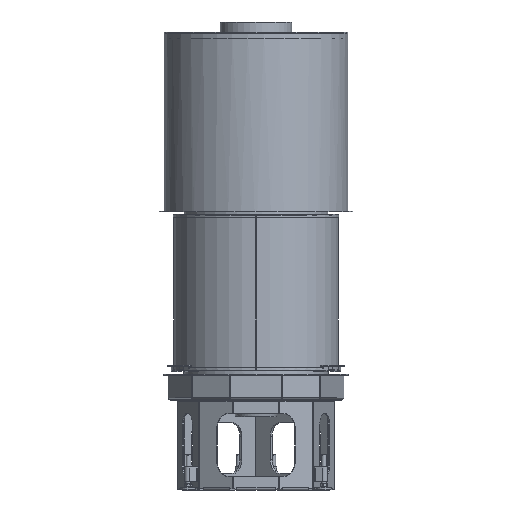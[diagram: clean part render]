
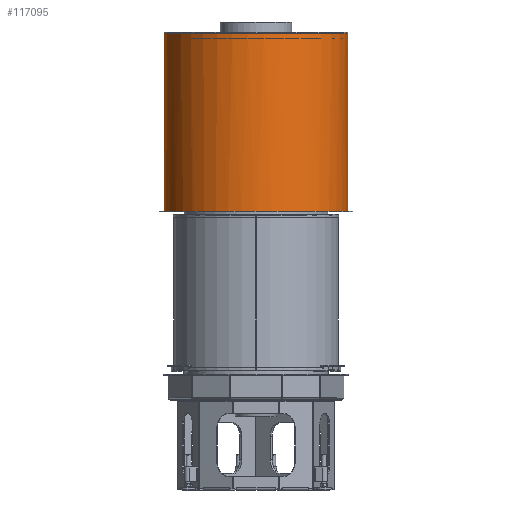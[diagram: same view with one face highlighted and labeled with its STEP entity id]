
A CAD part, front view. The second image highlights one B-rep face of the part: STEP entity #117095.
In plain terms, the highlighted cylindrical face has radius 320 mm (diameter 640 mm), a partial arc.
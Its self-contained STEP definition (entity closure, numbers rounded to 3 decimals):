
#2583=CYLINDRICAL_SURFACE('',#125795,320.);
#6833=FACE_OUTER_BOUND('',#12766,.T.);
#12766=EDGE_LOOP('',(#89287,#89288,#89289,#89290,#89291,#89292,#89293,#89294,
#89295,#89296,#89297,#89298,#89299,#89300,#89301,#89302,#89303,#89304));
#21711=LINE('',#186294,#32931);
#21717=LINE('',#186342,#32937);
#32931=VECTOR('',#148158,618.5);
#32937=VECTOR('',#148202,618.5);
#40979=CIRCLE('',#125796,320.);
#40980=CIRCLE('',#125797,320.);
#40981=CIRCLE('',#125798,320.);
#40982=CIRCLE('',#125799,320.);
#40983=CIRCLE('',#125800,320.);
#40984=CIRCLE('',#125801,320.);
#40985=CIRCLE('',#125802,320.);
#40986=CIRCLE('',#125803,320.);
#40987=CIRCLE('',#125804,320.);
#40988=CIRCLE('',#125805,320.);
#40989=CIRCLE('',#125806,320.);
#40990=CIRCLE('',#125807,320.);
#40991=CIRCLE('',#125808,320.);
#40992=CIRCLE('',#125809,320.);
#40993=CIRCLE('',#125810,320.);
#40994=CIRCLE('',#125811,320.);
#49073=VERTEX_POINT('',#186291);
#49074=VERTEX_POINT('',#186293);
#49082=VERTEX_POINT('',#186312);
#49083=VERTEX_POINT('',#186313);
#49084=VERTEX_POINT('',#186315);
#49085=VERTEX_POINT('',#186317);
#49086=VERTEX_POINT('',#186319);
#49087=VERTEX_POINT('',#186321);
#49088=VERTEX_POINT('',#186323);
#49089=VERTEX_POINT('',#186325);
#49090=VERTEX_POINT('',#186327);
#49091=VERTEX_POINT('',#186329);
#49092=VERTEX_POINT('',#186331);
#49093=VERTEX_POINT('',#186333);
#49094=VERTEX_POINT('',#186335);
#49095=VERTEX_POINT('',#186337);
#49096=VERTEX_POINT('',#186339);
#49097=VERTEX_POINT('',#186341);
#63186=EDGE_CURVE('',#49074,#49073,#21711,.T.);
#63196=EDGE_CURVE('',#49082,#49083,#40979,.T.);
#63197=EDGE_CURVE('',#49084,#49082,#40980,.T.);
#63198=EDGE_CURVE('',#49085,#49084,#40981,.T.);
#63199=EDGE_CURVE('',#49086,#49085,#40982,.T.);
#63200=EDGE_CURVE('',#49087,#49086,#40983,.T.);
#63201=EDGE_CURVE('',#49088,#49087,#40984,.T.);
#63202=EDGE_CURVE('',#49089,#49088,#40985,.T.);
#63203=EDGE_CURVE('',#49090,#49089,#40986,.T.);
#63204=EDGE_CURVE('',#49091,#49090,#40987,.T.);
#63205=EDGE_CURVE('',#49092,#49091,#40988,.T.);
#63206=EDGE_CURVE('',#49093,#49092,#40989,.T.);
#63207=EDGE_CURVE('',#49094,#49093,#40990,.T.);
#63208=EDGE_CURVE('',#49095,#49094,#40991,.T.);
#63209=EDGE_CURVE('',#49096,#49095,#40992,.T.);
#63210=EDGE_CURVE('',#49097,#49096,#21717,.T.);
#63211=EDGE_CURVE('',#49074,#49097,#40993,.T.);
#63212=EDGE_CURVE('',#49083,#49073,#40994,.T.);
#89287=ORIENTED_EDGE('',*,*,#63196,.F.);
#89288=ORIENTED_EDGE('',*,*,#63197,.F.);
#89289=ORIENTED_EDGE('',*,*,#63198,.F.);
#89290=ORIENTED_EDGE('',*,*,#63199,.F.);
#89291=ORIENTED_EDGE('',*,*,#63200,.F.);
#89292=ORIENTED_EDGE('',*,*,#63201,.F.);
#89293=ORIENTED_EDGE('',*,*,#63202,.F.);
#89294=ORIENTED_EDGE('',*,*,#63203,.F.);
#89295=ORIENTED_EDGE('',*,*,#63204,.F.);
#89296=ORIENTED_EDGE('',*,*,#63205,.F.);
#89297=ORIENTED_EDGE('',*,*,#63206,.F.);
#89298=ORIENTED_EDGE('',*,*,#63207,.F.);
#89299=ORIENTED_EDGE('',*,*,#63208,.F.);
#89300=ORIENTED_EDGE('',*,*,#63209,.F.);
#89301=ORIENTED_EDGE('',*,*,#63210,.F.);
#89302=ORIENTED_EDGE('',*,*,#63211,.F.);
#89303=ORIENTED_EDGE('',*,*,#63186,.T.);
#89304=ORIENTED_EDGE('',*,*,#63212,.F.);
#117095=ADVANCED_FACE('',(#6833),#2583,.T.);
#125795=AXIS2_PLACEMENT_3D('',#186311,#148172,#148173);
#125796=AXIS2_PLACEMENT_3D('',#186314,#148174,#148175);
#125797=AXIS2_PLACEMENT_3D('',#186316,#148176,#148177);
#125798=AXIS2_PLACEMENT_3D('',#186318,#148178,#148179);
#125799=AXIS2_PLACEMENT_3D('',#186320,#148180,#148181);
#125800=AXIS2_PLACEMENT_3D('',#186322,#148182,#148183);
#125801=AXIS2_PLACEMENT_3D('',#186324,#148184,#148185);
#125802=AXIS2_PLACEMENT_3D('',#186326,#148186,#148187);
#125803=AXIS2_PLACEMENT_3D('',#186328,#148188,#148189);
#125804=AXIS2_PLACEMENT_3D('',#186330,#148190,#148191);
#125805=AXIS2_PLACEMENT_3D('',#186332,#148192,#148193);
#125806=AXIS2_PLACEMENT_3D('',#186334,#148194,#148195);
#125807=AXIS2_PLACEMENT_3D('',#186336,#148196,#148197);
#125808=AXIS2_PLACEMENT_3D('',#186338,#148198,#148199);
#125809=AXIS2_PLACEMENT_3D('',#186340,#148200,#148201);
#125810=AXIS2_PLACEMENT_3D('',#186343,#148203,#148204);
#125811=AXIS2_PLACEMENT_3D('',#186344,#148205,#148206);
#148158=DIRECTION('',(0.,0.,-1.));
#148172=DIRECTION('center_axis',(0.,0.,
1.));
#148173=DIRECTION('ref_axis',(-0.707,0.707,0.));
#148174=DIRECTION('center_axis',(0.,0.,
-1.));
#148175=DIRECTION('ref_axis',(-0.707,0.707,0.));
#148176=DIRECTION('center_axis',(0.,0.,
-1.));
#148177=DIRECTION('ref_axis',(-0.707,0.707,0.));
#148178=DIRECTION('center_axis',(0.,0.,
-1.));
#148179=DIRECTION('ref_axis',(-0.707,0.707,0.));
#148180=DIRECTION('center_axis',(0.,0.,
-1.));
#148181=DIRECTION('ref_axis',(-0.707,0.707,0.));
#148182=DIRECTION('center_axis',(0.,0.,
-1.));
#148183=DIRECTION('ref_axis',(-0.707,0.707,0.));
#148184=DIRECTION('center_axis',(0.,0.,
-1.));
#148185=DIRECTION('ref_axis',(-0.707,0.707,0.));
#148186=DIRECTION('center_axis',(0.,0.,
-1.));
#148187=DIRECTION('ref_axis',(-0.707,0.707,0.));
#148188=DIRECTION('center_axis',(0.,0.,
-1.));
#148189=DIRECTION('ref_axis',(-0.707,0.707,0.));
#148190=DIRECTION('center_axis',(0.,0.,
-1.));
#148191=DIRECTION('ref_axis',(-0.707,0.707,0.));
#148192=DIRECTION('center_axis',(0.,0.,
-1.));
#148193=DIRECTION('ref_axis',(-0.707,0.707,0.));
#148194=DIRECTION('center_axis',(0.,0.,
-1.));
#148195=DIRECTION('ref_axis',(-0.707,0.707,0.));
#148196=DIRECTION('center_axis',(0.,0.,
-1.));
#148197=DIRECTION('ref_axis',(-0.707,0.707,0.));
#148198=DIRECTION('center_axis',(0.,0.,
-1.));
#148199=DIRECTION('ref_axis',(-0.707,0.707,0.));
#148200=DIRECTION('center_axis',(0.,0.,
-1.));
#148201=DIRECTION('ref_axis',(-0.707,0.707,0.));
#148202=DIRECTION('',(0.,0.,-1.));
#148203=DIRECTION('center_axis',(0.,0.,
1.));
#148204=DIRECTION('ref_axis',(-0.707,0.707,0.));
#148205=DIRECTION('center_axis',(0.,0.,
-1.));
#148206=DIRECTION('ref_axis',(-0.707,0.707,0.));
#186291=CARTESIAN_POINT('',(-226.274,226.274,459.95));
#186293=CARTESIAN_POINT('',(-226.274,226.274,1078.45));
#186294=CARTESIAN_POINT('',(-226.274,226.274,769.2));
#186311=CARTESIAN_POINT('Origin',(0.,0.,
769.2));
#186312=CARTESIAN_POINT('',(-248.318,201.837,459.95));
#186313=CARTESIAN_POINT('',(-241.89,209.497,459.95));
#186314=CARTESIAN_POINT('Origin',(0.,0.,
459.95));
#186315=CARTESIAN_POINT('',(-319.71,-13.613,459.95));
#186316=CARTESIAN_POINT('Origin',(0.,0.,
459.95));
#186317=CARTESIAN_POINT('',(-319.129,-23.596,459.95));
#186318=CARTESIAN_POINT('Origin',(0.,0.,
459.95));
#186319=CARTESIAN_POINT('',(-223.207,-229.3,459.95));
#186320=CARTESIAN_POINT('Origin',(0.,0.,
459.95));
#186321=CARTESIAN_POINT('',(-215.934,-236.162,459.95));
#186322=CARTESIAN_POINT('Origin',(0.,0.,
459.95));
#186323=CARTESIAN_POINT('',(-5.,-319.961,459.95));
#186324=CARTESIAN_POINT('Origin',(0.,0.,
459.95));
#186325=CARTESIAN_POINT('',(5.,-319.961,459.95));
#186326=CARTESIAN_POINT('Origin',(0.,0.,
459.95));
#186327=CARTESIAN_POINT('',(215.934,-236.162,459.95));
#186328=CARTESIAN_POINT('Origin',(0.,0.,
459.95));
#186329=CARTESIAN_POINT('',(223.207,-229.3,459.95));
#186330=CARTESIAN_POINT('Origin',(0.,0.,
459.95));
#186331=CARTESIAN_POINT('',(319.129,-23.596,459.95));
#186332=CARTESIAN_POINT('Origin',(0.,0.,
459.95));
#186333=CARTESIAN_POINT('',(319.71,-13.613,459.95));
#186334=CARTESIAN_POINT('Origin',(0.,0.,
459.95));
#186335=CARTESIAN_POINT('',(248.318,201.837,459.95));
#186336=CARTESIAN_POINT('Origin',(0.,0.,
459.95));
#186337=CARTESIAN_POINT('',(241.89,209.497,459.95));
#186338=CARTESIAN_POINT('Origin',(0.,0.,
459.95));
#186339=CARTESIAN_POINT('',(226.274,226.274,459.95));
#186340=CARTESIAN_POINT('Origin',(0.,0.,
459.95));
#186341=CARTESIAN_POINT('',(226.274,226.274,1078.45));
#186342=CARTESIAN_POINT('',(226.274,226.274,769.2));
#186343=CARTESIAN_POINT('Origin',(0.,0.,
1078.45));
#186344=CARTESIAN_POINT('Origin',(0.,0.,
459.95));
